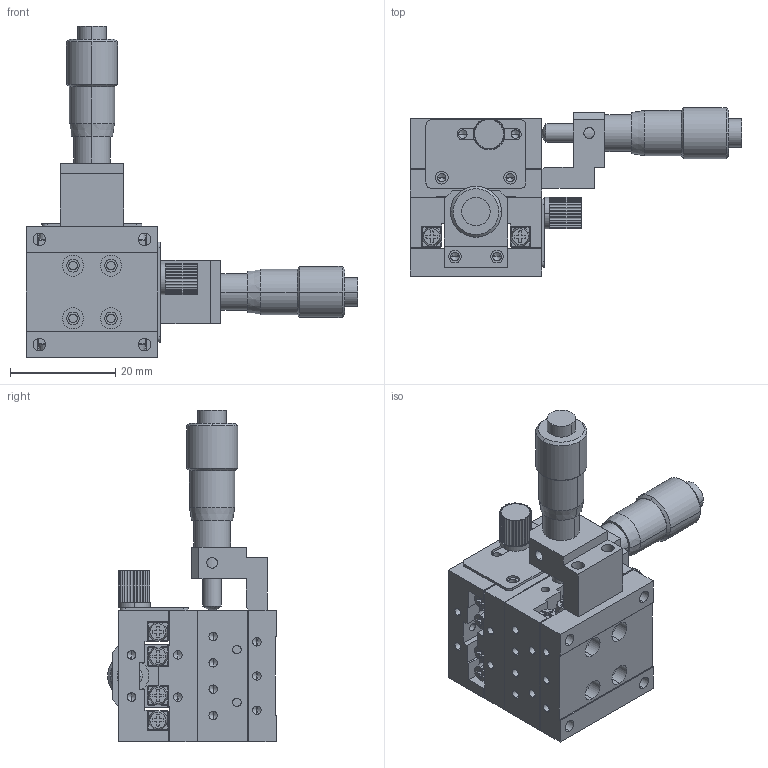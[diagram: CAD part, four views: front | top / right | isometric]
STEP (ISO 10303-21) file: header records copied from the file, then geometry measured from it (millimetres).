
FILE_DESCRIPTION (( 'STEP AP203' ), '1' );
FILE_NAME ('JCXY-25C.STEP', '2019-02-12T06:27:21', ( 'Windows 餌辨濠' ), ( '' ), 'SwSTEP 2.0', 'SolidWorks 2018', '' );
FILE_SCHEMA (( 'CONFIG_CONTROL_DESIGN' ));
Length unit declared in the file: millimetre
Products named in the file (11): JCXY-25C; FB-JCX25-BD-01; JCX-25C(MIR); FC-PL-19X13; FB-JCX25-BD-03; JCX-25C; FC-SJ-2; FB-JCX-BK-C-03; JALB-71-R; FC-NB-6; JV1-20-5
Assembly tree (24 placements, depth 3):
  JCXY-25C
    JCX-25C
      FB-JCX25-BD-03
      FB-JCX25-BD-01
      FB-JCX-BK-C-03
      FC-PL-19X13
      FC-NB-6
      JV1-20-5  x4
      JALB-71-R
      FC-SJ-2
    JCX-25C(MIR)
      FB-JCX25-BD-03
      FB-JCX25-BD-01
      FB-JCX-BK-C-03
      JV1-20-5  x4
      FC-PL-19X13
      FC-NB-6
      JALB-71-R
      FC-SJ-2
Bounding box: 63 x 32.05 x 63 mm (x, y, z)
Volume: 20152 mm3; surface area: 20463.4 mm2
Topology: 22 solids, 22 shells, 1672 faces, 4312 edges, 2666 vertices
Faces by surface type: plane 754, cylinder 742, cone 172, sphere 4
Entity records: 17133 total; most frequent: DIRECTION 2894, CARTESIAN_POINT 2764, ORIENTED_EDGE 2528, EDGE_CURVE 1264, AXIS2_PLACEMENT_3D 1115, VERTEX_POINT 817, LINE 664, VECTOR 664
